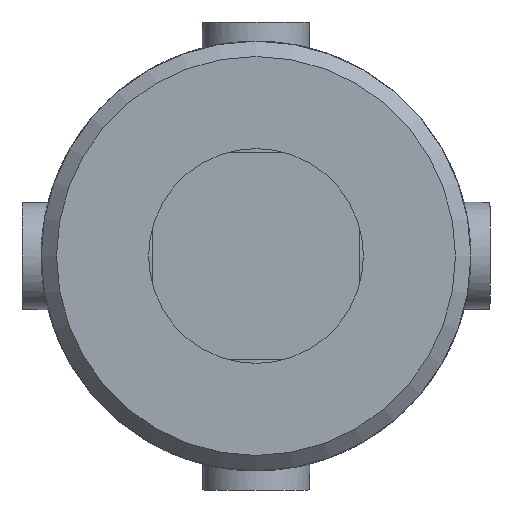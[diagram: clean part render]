
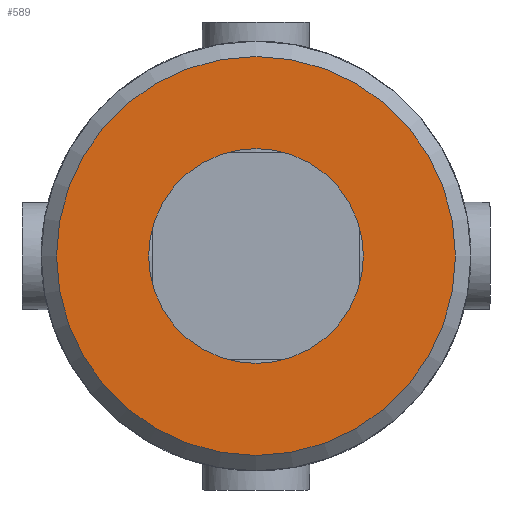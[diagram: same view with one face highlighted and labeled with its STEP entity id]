
A CAD part, left-side view. The second image highlights one B-rep face of the part: STEP entity #589.
In plain terms, the highlighted planar face has unit normal (-1, 0, 0) as drawn and (0, -1, 0) by its records, which use the part's own axes.
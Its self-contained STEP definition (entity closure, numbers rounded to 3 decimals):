
#121=PLANE('',#644);
#145=FACE_BOUND('',#221,.T.);
#168=FACE_OUTER_BOUND('',#220,.T.);
#220=EDGE_LOOP('',(#468));
#221=EDGE_LOOP('',(#469));
#257=CIRCLE('',#639,7.);
#259=CIRCLE('',#642,13.);
#292=VERTEX_POINT('',#908);
#294=VERTEX_POINT('',#913);
#354=EDGE_CURVE('',#292,#292,#257,.T.);
#356=EDGE_CURVE('',#294,#294,#259,.T.);
#468=ORIENTED_EDGE('',*,*,#356,.F.);
#469=ORIENTED_EDGE('',*,*,#354,.T.);
#589=ADVANCED_FACE('',(#168,#145),#121,.F.);
#639=AXIS2_PLACEMENT_3D('',#909,#749,#750);
#642=AXIS2_PLACEMENT_3D('',#914,#755,#756);
#644=AXIS2_PLACEMENT_3D('',#1090,#763,#764);
#749=DIRECTION('center_axis',(0.,1.,0.));
#750=DIRECTION('ref_axis',(-1.,0.,0.));
#755=DIRECTION('center_axis',(0.,1.,0.));
#756=DIRECTION('ref_axis',(1.,0.,0.));
#763=DIRECTION('center_axis',(0.,1.,0.));
#764=DIRECTION('ref_axis',(0.,0.,1.));
#908=CARTESIAN_POINT('',(7.,-36.5,0.));
#909=CARTESIAN_POINT('Origin',(0.,-36.5,0.));
#913=CARTESIAN_POINT('',(-13.,-36.5,0.));
#914=CARTESIAN_POINT('Origin',(0.,-36.5,0.));
#1090=CARTESIAN_POINT('Origin',(0.,-36.5,0.));
